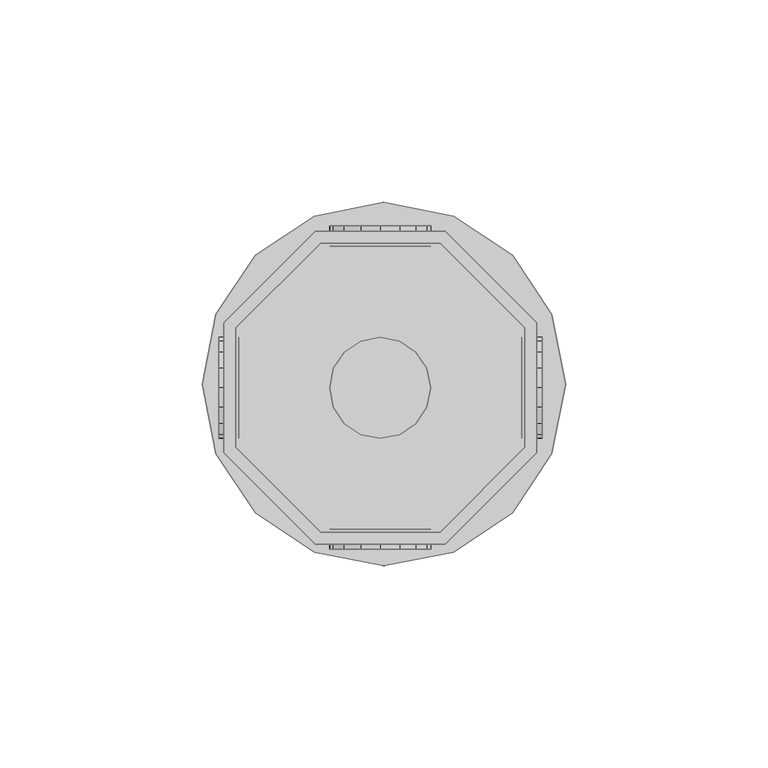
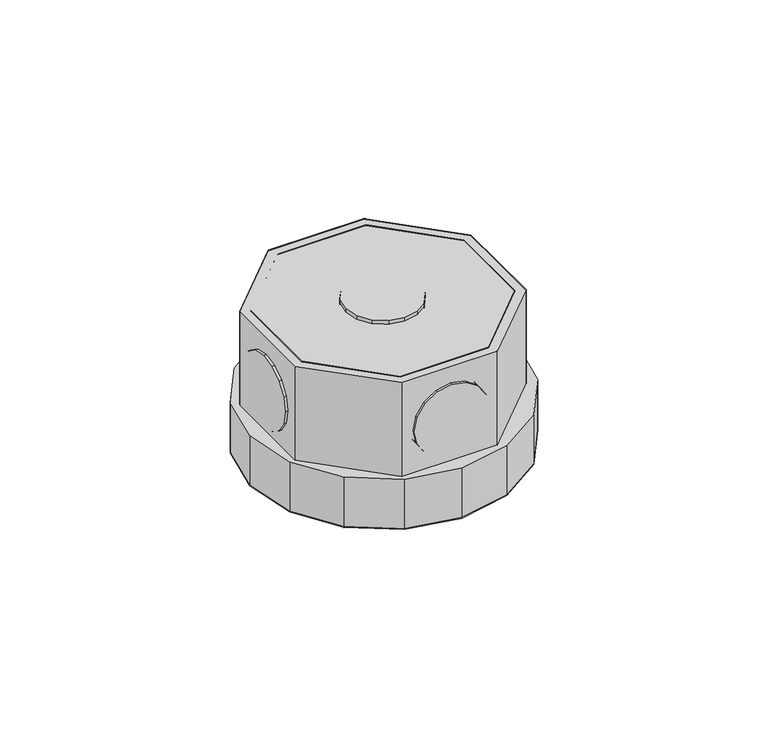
"""IFC4 building model written with IfcOpenShell, lengths in millimetres: light fixture geometry,  212420 :  212420."""

from ifc_helpers import new_model, si_unit, origin, place, context, project, spatial, triangles, source, transform, mapped, element, save


def light_fixture_2178c24e(model_context):
    return source(origin(), model_context, "Body", "Tessellation", [
        triangles([(15881.6003723, 10112.1002106, 2924.5999741), (15881.6003723, 10082.4996918, 2975.400071), (15881.6003723, 10082.4996918, 2924.5999741), (15881.6003723, 10112.1002106, 2975.400071), (15956.1004761, 10113.3001373, 2924.5999741), (15956.1004761, 10081.1997711, 2975.400071), (15956.1004761, 10081.1997711, 2924.5999741), (15956.1004761, 10113.3001373, 2975.400071), (15902.6002533, 10061.4998108, 2975.400071), (15902.6002533, 10061.4998108, 2924.5999741), (15933.3995361, 10135.9999146, 2924.5999741), (15933.3995361, 10135.9999146, 2975.400071), (15932.1996094, 10061.4998108, 2975.400071), (15932.1996094, 10061.4998108, 2924.5999741), (15901.3003326, 10135.9999146, 2924.5999741), (15901.3003326, 10135.9999146, 2975.400071), (15953.0994965, 10082.4996918, 2975.400071), (15953.0994965, 10082.4996918, 2924.5999741), (15878.6005554, 10113.3001373, 2924.5999741), (15878.6005554, 10113.3001373, 2975.400071), (15953.0994965, 10112.1002106, 2924.5999741), (15953.0994965, 10112.1002106, 2975.400071), (15878.6005554, 10081.1997711, 2975.400071), (15878.6005554, 10081.1997711, 2924.5999741), (15932.1996094, 10133.0000977, 2924.5999741), (15932.1996094, 10133.0000977, 2975.400071), (15901.3003326, 10058.4999939, 2975.400071), (15901.3003326, 10058.4999939, 2924.5999741), (15933.3995361, 10058.4999939, 2975.400071), (15902.6002533, 10133.0000977, 2975.400071), (15902.6002533, 10133.0000977, 2924.5999741), (15933.3995361, 10058.4999939, 2924.5999741), (15932.1996094, 10061.4998108, 2972.3999634), (15953.0994965, 10082.4996918, 2972.3999634), (15953.0994965, 10112.1002106, 2972.3999634), (15932.1996094, 10133.0000977, 2972.3999634), (15902.6002533, 10133.0000977, 2972.3999634), (15881.6003723, 10112.1002106, 2972.3999634), (15881.6003723, 10082.4996918, 2972.3999634), (15902.6002533, 10061.4998108, 2972.3999634), (15901.3003326, 10058.4999939, 2942.4000504), (15878.6005554, 10081.1997711, 2942.4000504), (15878.6005554, 10113.3001373, 2942.4000504), (15901.3003326, 10135.9999146, 2942.4000504), (15933.3995361, 10135.9999146, 2942.4000504), (15956.1004761, 10113.3001373, 2942.4000504), (15956.1004761, 10081.1997711, 2942.4000504), (15933.3995361, 10058.4999939, 2942.4000504), (15959.8002502, 10080.8997894, 2942.4000504), (15935.5005707, 10056.6001099, 2942.4000504), (15950.0996796, 10066.2995178, 2942.4000504), (15918.3004578, 10053.2003174, 2942.4000504), (15901.000351, 10056.6001099, 2942.4000504), (15886.4000793, 10066.2995178, 2942.4000504), (15876.6995087, 10080.8997894, 2942.4000504), (15873.2997162, 10098.1998962, 2942.4000504), (15876.6995087, 10115.4000092, 2942.4000504), (15901.000351, 10139.6996887, 2942.4000504), (15886.4000793, 10130.0002808, 2942.4000504), (15963.3000366, 10098.1998962, 2942.4000504), (15959.8002502, 10115.4000092, 2942.4000504), (15950.0996796, 10130.0002808, 2942.4000504), (15935.5005707, 10139.6996887, 2942.4000504), (15918.3004578, 10143.1994751, 2942.4000504), (15935.5005707, 10056.6001099, 2924.5999741), (15959.8002502, 10080.8997894, 2924.5999741), (15950.0996796, 10066.2995178, 2924.5999741), (15918.3004578, 10053.2003174, 2924.5999741), (15901.000351, 10056.6001099, 2924.5999741), (15886.4000793, 10066.2995178, 2924.5999741), (15876.6995087, 10080.8997894, 2924.5999741), (15873.2997162, 10098.1998962, 2924.5999741), (15876.6995087, 10115.4000092, 2924.5999741), (15901.000351, 10139.6996887, 2924.5999741), (15886.4000793, 10130.0002808, 2924.5999741), (15963.3000366, 10098.1998962, 2924.5999741), (15959.8002502, 10115.4000092, 2924.5999741), (15950.0996796, 10130.0002808, 2924.5999741), (15935.5005707, 10139.6996887, 2924.5999741), (15918.3004578, 10143.1994751, 2924.5999741), (15877.3994659, 10085.6994965, 2952.6000092), (15877.3994659, 10092.5002441, 2945.9001274), (15877.3994659, 10088.4004944, 2948.5999626), (15877.3994659, 10084.7995514, 2957.4000069), (15877.3994659, 10097.2999512, 2944.8998978), (15877.3994659, 10085.6994965, 2962.2000046), (15877.3994659, 10102.0996582, 2945.9001274), (15877.3994659, 10088.4004944, 2966.2000511), (15877.3994659, 10106.1005768, 2948.5999626), (15877.3994659, 10092.5002441, 2968.8998863), (15877.3994659, 10108.800412, 2952.6000092), (15877.3994659, 10097.2999512, 2969.900116), (15877.3994659, 10109.800351, 2957.4000069), (15877.3994659, 10102.0996582, 2968.8998863), (15877.3994659, 10108.800412, 2962.2000046), (15877.3994659, 10106.1005768, 2966.2000511), (15882.4003235, 10092.5002441, 2945.9001274), (15882.4003235, 10085.6994965, 2952.6000092), (15882.4003235, 10088.4004944, 2948.5999626), (15882.4003235, 10097.2999512, 2944.8998978), (15882.4003235, 10084.7995514, 2957.4000069), (15882.4003235, 10102.0996582, 2945.9001274), (15882.4003235, 10085.6994965, 2962.2000046), (15882.4003235, 10106.1005768, 2948.5999626), (15882.4003235, 10088.4004944, 2966.2000511), (15882.4003235, 10092.5002441, 2968.8998863), (15882.4003235, 10108.800412, 2952.6000092), (15882.4003235, 10097.2999512, 2969.900116), (15882.4003235, 10109.800351, 2957.4000069), (15882.4003235, 10102.0996582, 2968.8998863), (15882.4003235, 10108.800412, 2962.2000046), (15882.4003235, 10106.1005768, 2966.2000511), (15952.3995392, 10085.6994965, 2952.6000092), (15952.3995392, 10092.5002441, 2945.9001274), (15952.3995392, 10088.4004944, 2948.5999626), (15952.3995392, 10084.7995514, 2957.4000069), (15952.3995392, 10097.2999512, 2944.8998978), (15952.3995392, 10085.6994965, 2962.2000046), (15952.3995392, 10102.0996582, 2945.9001274), (15952.3995392, 10088.4004944, 2966.2000511), (15952.3995392, 10106.1005768, 2948.5999626), (15952.3995392, 10092.5002441, 2968.8998863), (15952.3995392, 10108.800412, 2952.6000092), (15952.3995392, 10097.2999512, 2969.900116), (15952.3995392, 10109.800351, 2957.4000069), (15952.3995392, 10102.0996582, 2968.8998863), (15952.3995392, 10108.800412, 2962.2000046), (15952.3995392, 10106.1005768, 2966.2000511), (15957.4003967, 10092.5002441, 2945.9001274), (15957.4003967, 10085.6994965, 2952.6000092), (15957.4003967, 10088.4004944, 2948.5999626), (15957.4003967, 10097.2999512, 2944.8998978), (15957.4003967, 10084.7995514, 2957.4000069), (15957.4003967, 10102.0996582, 2945.9001274), (15957.4003967, 10085.6994965, 2962.2000046), (15957.4003967, 10106.1005768, 2948.5999626), (15957.4003967, 10088.4004944, 2966.2000511), (15957.4003967, 10092.5002441, 2968.8998863), (15957.4003967, 10108.800412, 2952.6000092), (15957.4003967, 10097.2999512, 2969.900116), (15957.4003967, 10109.800351, 2957.4000069), (15957.4003967, 10102.0996582, 2968.8998863), (15957.4003967, 10108.800412, 2962.2000046), (15957.4003967, 10106.1005768, 2966.2000511), (15922.2002197, 10062.299762, 2945.9001274), (15928.8998108, 10062.299762, 2952.6000092), (15926.1999756, 10062.299762, 2948.5999626), (15917.4005127, 10062.299762, 2944.8998978), (15929.8997498, 10062.299762, 2957.4000069), (15912.5996429, 10062.299762, 2945.9001274), (15928.8998108, 10062.299762, 2962.2000046), (15908.4998932, 10062.299762, 2948.5999626), (15926.1999756, 10062.299762, 2966.2000511), (15922.2002197, 10062.299762, 2968.8998863), (15905.800058, 10062.299762, 2952.6000092), (15917.4005127, 10062.299762, 2969.900116), (15904.9001129, 10062.299762, 2957.4000069), (15912.5996429, 10062.299762, 2968.8998863), (15905.800058, 10062.299762, 2962.2000046), (15908.4998932, 10062.299762, 2966.2000511), (15928.8998108, 10057.3000671, 2952.6000092), (15922.2002197, 10057.3000671, 2945.9001274), (15926.1999756, 10057.3000671, 2948.5999626), (15929.8997498, 10057.3000671, 2957.4000069), (15917.4005127, 10057.3000671, 2944.8998978), (15928.8998108, 10057.3000671, 2962.2000046), (15912.5996429, 10057.3000671, 2945.9001274), (15926.1999756, 10057.3000671, 2966.2000511), (15908.4998932, 10057.3000671, 2948.5999626), (15922.2002197, 10057.3000671, 2968.8998863), (15905.800058, 10057.3000671, 2952.6000092), (15917.4005127, 10057.3000671, 2969.900116), (15904.9001129, 10057.3000671, 2957.4000069), (15912.5996429, 10057.3000671, 2968.8998863), (15905.800058, 10057.3000671, 2962.2000046), (15908.4998932, 10057.3000671, 2966.2000511), (15922.2002197, 10137.2998352, 2945.9001274), (15928.8998108, 10137.2998352, 2952.6000092), (15926.1999756, 10137.2998352, 2948.5999626), (15917.4005127, 10137.2998352, 2944.8998978), (15929.8997498, 10137.2998352, 2957.4000069), (15912.5996429, 10137.2998352, 2945.9001274), (15928.8998108, 10137.2998352, 2962.2000046), (15908.4998932, 10137.2998352, 2948.5999626), (15926.1999756, 10137.2998352, 2966.2000511), (15922.2002197, 10137.2998352, 2968.8998863), (15905.800058, 10137.2998352, 2952.6000092), (15917.4005127, 10137.2998352, 2969.900116), (15904.9001129, 10137.2998352, 2957.4000069), (15912.5996429, 10137.2998352, 2968.8998863), (15905.800058, 10137.2998352, 2962.2000046), (15908.4998932, 10137.2998352, 2966.2000511), (15928.8998108, 10132.3001404, 2952.6000092), (15922.2002197, 10132.3001404, 2945.9001274), (15926.1999756, 10132.3001404, 2948.5999626), (15929.8997498, 10132.3001404, 2957.4000069), (15917.4005127, 10132.3001404, 2944.8998978), (15928.8998108, 10132.3001404, 2962.2000046), (15912.5996429, 10132.3001404, 2945.9001274), (15926.1999756, 10132.3001404, 2966.2000511), (15908.4998932, 10132.3001404, 2948.5999626), (15922.2002197, 10132.3001404, 2968.8998863), (15905.800058, 10132.3001404, 2952.6000092), (15917.4005127, 10132.3001404, 2969.900116), (15904.9001129, 10132.3001404, 2957.4000069), (15912.5996429, 10132.3001404, 2968.8998863), (15905.800058, 10132.3001404, 2962.2000046), (15908.4998932, 10132.3001404, 2966.2000511), (15928.8998108, 10092.5002441, 2976.9999733), (15922.2002197, 10085.6994965, 2976.9999733), (15926.1999756, 10088.4004944, 2976.9999733), (15917.4005127, 10084.7995514, 2976.9999733), (15929.8997498, 10097.2999512, 2976.9999733), (15912.5996429, 10085.6994965, 2976.9999733), (15928.8998108, 10102.0996582, 2976.9999733), (15908.4998932, 10088.4004944, 2976.9999733), (15926.1999756, 10106.1005768, 2976.9999733), (15905.800058, 10092.5002441, 2976.9999733), (15922.2002197, 10108.800412, 2976.9999733), (15904.9001129, 10097.2999512, 2976.9999733), (15917.4005127, 10109.800351, 2976.9999733), (15905.800058, 10102.0996582, 2976.9999733), (15912.5996429, 10108.800412, 2976.9999733), (15908.4998932, 10106.1005768, 2976.9999733), (15922.2002197, 10085.6994965, 2971.9999878), (15928.8998108, 10092.5002441, 2971.9999878), (15926.1999756, 10088.4004944, 2971.9999878), (15917.4005127, 10084.7995514, 2971.9999878), (15929.8997498, 10097.2999512, 2971.9999878), (15912.5996429, 10085.6994965, 2971.9999878), (15928.8998108, 10102.0996582, 2971.9999878), (15908.4998932, 10088.4004944, 2971.9999878), (15926.1999756, 10106.1005768, 2971.9999878), (15905.800058, 10092.5002441, 2971.9999878), (15922.2002197, 10108.800412, 2971.9999878), (15904.9001129, 10097.2999512, 2971.9999878), (15917.4005127, 10109.800351, 2971.9999878), (15905.800058, 10102.0996582, 2971.9999878), (15912.5996429, 10108.800412, 2971.9999878), (15908.4998932, 10106.1005768, 2971.9999878)], [[1, 2, 3], [2, 1, 4], [5, 6, 7], [6, 5, 8], [3, 9, 10], [9, 3, 2], [11, 8, 5], [8, 11, 12], [10, 13, 14], [13, 10, 9], [15, 12, 11], [12, 15, 16], [14, 17, 18], [17, 14, 13], [19, 16, 15], [16, 19, 20], [17, 21, 18], [21, 17, 22], [23, 19, 24], [19, 23, 20], [22, 25, 21], [25, 22, 26], [27, 24, 28], [24, 27, 23], [6, 13, 29], [29, 13, 27], [27, 13, 9], [27, 9, 23], [23, 9, 2], [23, 2, 4], [23, 4, 20], [20, 4, 30], [8, 17, 6], [6, 17, 13], [17, 8, 22], [12, 22, 8], [22, 12, 26], [30, 26, 12], [16, 30, 12], [20, 30, 16], [30, 1, 31], [1, 30, 4], [6, 32, 7], [32, 6, 29], [32, 14, 7], [28, 14, 32], [14, 28, 10], [24, 10, 28], [10, 24, 3], [1, 3, 24], [19, 1, 24], [31, 1, 19], [7, 18, 5], [14, 18, 7], [5, 18, 21], [5, 21, 11], [11, 21, 25], [11, 25, 31], [11, 31, 15], [15, 31, 19], [26, 31, 25], [31, 26, 30], [29, 28, 32], [28, 29, 27], [17, 33, 34], [33, 17, 13], [35, 17, 34], [17, 35, 22], [36, 22, 35], [22, 36, 26], [37, 26, 36], [26, 37, 30], [38, 30, 37], [30, 38, 4], [2, 38, 39], [38, 2, 4], [17, 9, 13], [9, 17, 22], [9, 22, 2], [2, 22, 26], [2, 26, 4], [4, 26, 30], [13, 40, 33], [40, 13, 9], [40, 34, 33], [35, 34, 40], [35, 40, 39], [35, 39, 36], [36, 39, 38], [36, 38, 37], [9, 39, 40], [39, 9, 2], [24, 41, 28], [41, 24, 42], [19, 42, 24], [42, 19, 43], [44, 19, 15], [19, 44, 43], [45, 15, 11], [15, 45, 44], [46, 11, 5], [11, 46, 45], [47, 5, 7], [5, 47, 46], [32, 47, 7], [47, 32, 48], [28, 48, 32], [48, 28, 41], [49, 50, 51], [48, 50, 49], [50, 48, 52], [41, 52, 48], [52, 41, 53], [53, 41, 54], [42, 54, 41], [54, 42, 55], [55, 42, 43], [55, 43, 56], [56, 43, 57], [57, 43, 44], [57, 44, 58], [57, 58, 59], [47, 49, 60], [49, 47, 48], [47, 60, 46], [61, 46, 60], [46, 61, 62], [46, 62, 45], [45, 62, 63], [44, 45, 63], [44, 63, 64], [44, 64, 58], [65, 66, 67], [66, 65, 32], [68, 32, 65], [32, 68, 28], [28, 68, 69], [70, 28, 69], [28, 70, 24], [71, 24, 70], [19, 24, 71], [19, 71, 72], [73, 19, 72], [19, 73, 15], [74, 15, 73], [74, 73, 75], [76, 66, 7], [32, 7, 66], [5, 76, 7], [76, 5, 77], [77, 5, 78], [11, 78, 5], [78, 11, 79], [79, 11, 15], [79, 15, 80], [80, 15, 74], [57, 75, 73], [75, 57, 59], [56, 73, 72], [73, 56, 57], [55, 72, 71], [72, 55, 56], [54, 71, 70], [71, 54, 55], [53, 70, 69], [70, 53, 54], [52, 69, 68], [69, 52, 53], [50, 68, 65], [68, 50, 52], [51, 65, 67], [65, 51, 50], [66, 51, 67], [51, 66, 49], [76, 49, 66], [49, 76, 60], [77, 60, 76], [60, 77, 61], [78, 61, 77], [61, 78, 62], [79, 62, 78], [62, 79, 63], [80, 63, 79], [63, 80, 64], [75, 58, 74], [58, 75, 59], [74, 64, 80], [64, 74, 58], [81, 82, 83], [82, 81, 84], [85, 82, 84], [85, 84, 86], [87, 85, 86], [87, 86, 88], [87, 88, 89], [89, 88, 90], [89, 90, 91], [91, 90, 92], [91, 92, 93], [93, 92, 94], [93, 94, 95], [95, 94, 96], [97, 98, 99], [98, 97, 100], [101, 98, 100], [101, 100, 102], [103, 101, 102], [103, 102, 104], [103, 104, 105], [105, 104, 106], [106, 104, 107], [106, 107, 108], [108, 107, 109], [108, 109, 110], [110, 109, 111], [110, 111, 112], [87, 104, 102], [104, 87, 89], [85, 102, 100], [102, 85, 87], [82, 100, 97], [100, 82, 85], [83, 97, 99], [97, 83, 82], [98, 83, 99], [83, 98, 81], [101, 81, 98], [81, 101, 84], [103, 84, 101], [84, 103, 86], [105, 86, 103], [86, 105, 88], [106, 88, 105], [88, 106, 90], [108, 90, 106], [90, 108, 92], [110, 92, 108], [92, 110, 94], [112, 94, 110], [94, 112, 96], [95, 112, 111], [112, 95, 96], [93, 111, 109], [111, 93, 95], [89, 107, 104], [107, 89, 91], [91, 109, 107], [109, 91, 93], [113, 114, 115], [114, 113, 116], [117, 114, 116], [117, 116, 118], [119, 117, 118], [119, 118, 120], [119, 120, 121], [121, 120, 122], [121, 122, 123], [123, 122, 124], [123, 124, 125], [125, 124, 126], [125, 126, 127], [127, 126, 128], [129, 130, 131], [130, 129, 132], [133, 130, 132], [133, 132, 134], [135, 133, 134], [135, 134, 136], [135, 136, 137], [137, 136, 138], [138, 136, 139], [138, 139, 140], [140, 139, 141], [140, 141, 142], [142, 141, 143], [142, 143, 144], [119, 136, 134], [136, 119, 121], [117, 134, 132], [134, 117, 119], [114, 132, 129], [132, 114, 117], [115, 129, 131], [129, 115, 114], [130, 115, 131], [115, 130, 113], [133, 113, 130], [113, 133, 116], [135, 116, 133], [116, 135, 118], [137, 118, 135], [118, 137, 120], [138, 120, 137], [120, 138, 122], [140, 122, 138], [122, 140, 124], [142, 124, 140], [124, 142, 126], [144, 126, 142], [126, 144, 128], [127, 144, 143], [144, 127, 128], [125, 143, 141], [143, 125, 127], [121, 139, 136], [139, 121, 123], [123, 141, 139], [141, 123, 125], [145, 146, 147], [146, 145, 148], [149, 146, 148], [149, 148, 150], [151, 149, 150], [151, 150, 152], [151, 152, 153], [153, 152, 154], [154, 152, 155], [154, 155, 156], [156, 155, 157], [156, 157, 158], [158, 157, 159], [158, 159, 160], [161, 162, 163], [162, 161, 164], [165, 162, 164], [165, 164, 166], [167, 165, 166], [167, 166, 168], [169, 167, 168], [169, 168, 170], [169, 170, 171], [171, 170, 172], [171, 172, 173], [173, 172, 174], [173, 174, 175], [175, 174, 176], [158, 176, 174], [176, 158, 160], [156, 174, 172], [174, 156, 158], [154, 172, 170], [172, 154, 156], [153, 170, 168], [170, 153, 154], [151, 168, 166], [168, 151, 153], [149, 166, 164], [166, 149, 151], [146, 164, 161], [164, 146, 149], [147, 161, 163], [161, 147, 146], [162, 147, 163], [147, 162, 145], [165, 145, 162], [145, 165, 148], [167, 148, 165], [148, 167, 150], [169, 150, 167], [150, 169, 152], [171, 152, 169], [152, 171, 155], [173, 155, 171], [155, 173, 157], [176, 159, 175], [159, 176, 160], [175, 157, 173], [157, 175, 159], [177, 178, 179], [178, 177, 180], [181, 178, 180], [181, 180, 182], [183, 181, 182], [183, 182, 184], [183, 184, 185], [185, 184, 186], [186, 184, 187], [186, 187, 188], [188, 187, 189], [188, 189, 190], [190, 189, 191], [190, 191, 192], [193, 194, 195], [194, 193, 196], [197, 194, 196], [197, 196, 198], [199, 197, 198], [199, 198, 200], [201, 199, 200], [201, 200, 202], [201, 202, 203], [203, 202, 204], [203, 204, 205], [205, 204, 206], [205, 206, 207], [207, 206, 208], [190, 208, 206], [208, 190, 192], [188, 206, 204], [206, 188, 190], [186, 204, 202], [204, 186, 188], [185, 202, 200], [202, 185, 186], [183, 200, 198], [200, 183, 185], [181, 198, 196], [198, 181, 183], [178, 196, 193], [196, 178, 181], [179, 193, 195], [193, 179, 178], [194, 179, 195], [179, 194, 177], [197, 177, 194], [177, 197, 180], [199, 180, 197], [180, 199, 182], [201, 182, 199], [182, 201, 184], [203, 184, 201], [184, 203, 187], [205, 187, 203], [187, 205, 189], [208, 191, 207], [191, 208, 192], [207, 189, 205], [189, 207, 191], [209, 210, 211], [212, 210, 209], [212, 209, 213], [214, 212, 213], [214, 213, 215], [216, 214, 215], [216, 215, 217], [216, 217, 218], [218, 217, 219], [218, 219, 220], [220, 219, 221], [220, 221, 222], [222, 221, 223], [222, 223, 224], [225, 226, 227], [226, 225, 228], [229, 226, 228], [229, 228, 230], [231, 229, 230], [231, 230, 232], [231, 232, 233], [233, 232, 234], [233, 234, 235], [235, 234, 236], [235, 236, 237], [237, 236, 238], [237, 238, 239], [239, 238, 240], [222, 240, 238], [240, 222, 224], [220, 238, 236], [238, 220, 222], [218, 236, 234], [236, 218, 220], [216, 234, 232], [234, 216, 218], [214, 232, 230], [232, 214, 216], [212, 230, 228], [230, 212, 214], [210, 228, 225], [228, 210, 212], [211, 225, 227], [225, 211, 210], [226, 211, 227], [211, 226, 209], [229, 209, 226], [209, 229, 213], [231, 213, 229], [213, 231, 215], [233, 215, 231], [215, 233, 217], [235, 217, 233], [217, 235, 219], [237, 219, 235], [219, 237, 221], [240, 223, 239], [223, 240, 224], [239, 221, 237], [221, 239, 223]], closed=False),
    ])


if __name__ == "__main__":
    model = new_model("IFC4")
    model_context = context("Model", 3, world=origin())
    ifc_project = project(units=[si_unit("LENGTHUNIT", "METRE", prefix="MILLI")], contexts=[model_context])
    site = spatial("IfcSite", under=ifc_project)
    building = spatial("IfcBuilding", under=site)
    placement = place(None, origin())
    light_fixture_shape = light_fixture_2178c24e(model_context)
    element("IfcLightFixture", 1, ObjectType=" 212420 :  212420", at=placement, inside=building, context=model_context, shape_type="MappedRepresentation", body=[
        mapped(light_fixture_shape, transform((0.0, 0.0, 0.0), x_axis=(1.0, 0.0, 0.0), y_axis=(0.0, 1.0, 0.0), z_axis=(0.0, 0.0, 1.0))),
    ])
    save(model, "model.ifc")
